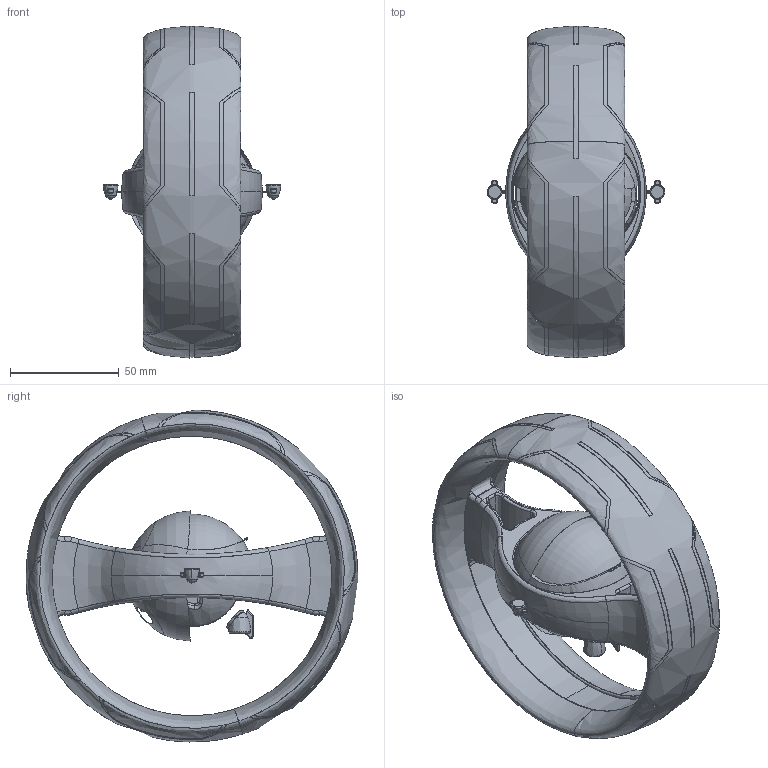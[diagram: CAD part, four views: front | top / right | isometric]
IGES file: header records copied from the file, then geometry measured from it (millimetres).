
Start section: SolidWorks IGES file using analytic representation for surfaces
Global section: file name: C:\Users\Ridwan\Desktop\One Model\Future Vechile R-Survive Wheel\Future Vechile R-Survive Wheel.IGS; native system: SolidWorks 2014; preprocessor: SolidWorks 2014; author: Ridwan; date: 160117.033427; units: millimetre
Bounding box: 81.94 x 152.94 x 152.94 mm (x, y, z)
Surface area: 122532 mm2 (no closed solid volume)
Topology: 0 solids, 0 shells, 747 faces, 9453 edges, 9449 vertices
Faces by surface type: bspline 604, revolution 143
